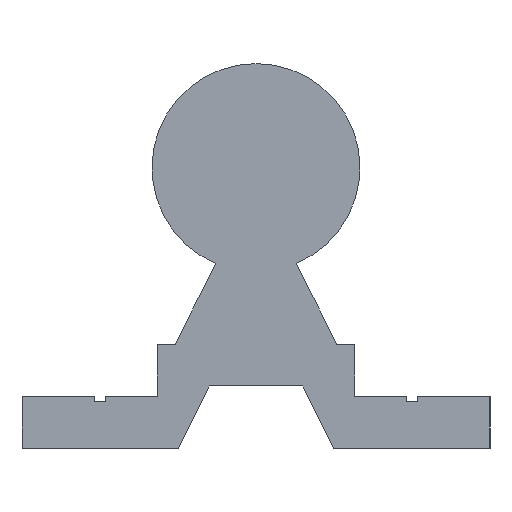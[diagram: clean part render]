
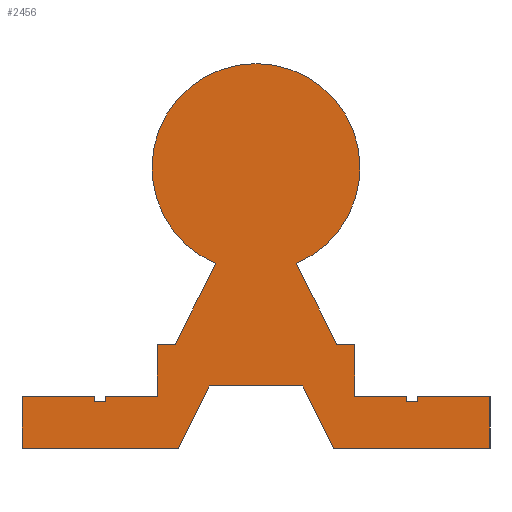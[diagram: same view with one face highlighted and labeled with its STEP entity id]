
A CAD part, left-side view. The second image highlights one B-rep face of the part: STEP entity #2456.
In plain terms, the highlighted planar face has unit normal (-1, 0, 0).
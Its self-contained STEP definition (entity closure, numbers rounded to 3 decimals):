
#61=LINE('',#3503,#261);
#71=LINE('',#3544,#271);
#98=LINE('',#3753,#298);
#200=LINE('',#4149,#400);
#204=LINE('',#4157,#404);
#207=LINE('',#4163,#407);
#210=LINE('',#4169,#410);
#213=LINE('',#4175,#413);
#217=LINE('',#4182,#417);
#220=LINE('',#4187,#420);
#222=LINE('',#4191,#422);
#223=LINE('',#4193,#423);
#224=LINE('',#4196,#424);
#227=LINE('',#4202,#427);
#230=LINE('',#4208,#430);
#233=LINE('',#4215,#433);
#237=LINE('',#4223,#437);
#240=LINE('',#4228,#440);
#243=LINE('',#4233,#443);
#245=LINE('',#4237,#445);
#246=LINE('',#4239,#446);
#247=LINE('',#4242,#447);
#250=LINE('',#4247,#450);
#261=VECTOR('',#2770,10.);
#271=VECTOR('',#2792,10.);
#298=VECTOR('',#2945,10.);
#400=VECTOR('',#3353,10.);
#404=VECTOR('',#3359,10.);
#407=VECTOR('',#3364,10.);
#410=VECTOR('',#3369,10.);
#413=VECTOR('',#3374,10.);
#417=VECTOR('',#3380,10.);
#420=VECTOR('',#3385,10.);
#422=VECTOR('',#3389,10.);
#423=VECTOR('',#3392,10.);
#424=VECTOR('',#3395,10.);
#427=VECTOR('',#3400,10.);
#430=VECTOR('',#3405,10.);
#433=VECTOR('',#3410,10.);
#437=VECTOR('',#3416,10.);
#440=VECTOR('',#3421,10.);
#443=VECTOR('',#3426,10.);
#445=VECTOR('',#3430,10.);
#446=VECTOR('',#3433,10.);
#447=VECTOR('',#3436,10.);
#450=VECTOR('',#3441,10.);
#530=PLANE('',#2734);
#644=FACE_OUTER_BOUND('',#776,.T.);
#776=EDGE_LOOP('',(#2303,#2304,#2305,#2306,#2307,#2308,#2309,#2310,#2311,
#2312,#2313,#2314,#2315,#2316,#2317,#2318,#2319,#2320,#2321,#2322,#2323,
#2324,#2325,#2326));
#919=CIRCLE('',#2731,10.);
#973=VERTEX_POINT('',#3500);
#974=VERTEX_POINT('',#3502);
#986=VERTEX_POINT('',#3541);
#987=VERTEX_POINT('',#3543);
#1048=VERTEX_POINT('',#3750);
#1049=VERTEX_POINT('',#3752);
#1168=VERTEX_POINT('',#4147);
#1169=VERTEX_POINT('',#4148);
#1172=VERTEX_POINT('',#4156);
#1174=VERTEX_POINT('',#4162);
#1176=VERTEX_POINT('',#4168);
#1178=VERTEX_POINT('',#4174);
#1180=VERTEX_POINT('',#4180);
#1181=VERTEX_POINT('',#4185);
#1182=VERTEX_POINT('',#4189);
#1183=VERTEX_POINT('',#4195);
#1185=VERTEX_POINT('',#4201);
#1187=VERTEX_POINT('',#4207);
#1189=VERTEX_POINT('',#4213);
#1190=VERTEX_POINT('',#4214);
#1193=VERTEX_POINT('',#4222);
#1195=VERTEX_POINT('',#4231);
#1196=VERTEX_POINT('',#4235);
#1197=VERTEX_POINT('',#4241);
#1220=EDGE_CURVE('',#973,#974,#61,.T.);
#1236=EDGE_CURVE('',#986,#987,#71,.T.);
#1324=EDGE_CURVE('',#1048,#1049,#98,.T.);
#1521=EDGE_CURVE('',#1168,#1169,#200,.T.);
#1525=EDGE_CURVE('',#1172,#1168,#204,.T.);
#1528=EDGE_CURVE('',#1174,#1172,#207,.T.);
#1531=EDGE_CURVE('',#1176,#1174,#210,.T.);
#1534=EDGE_CURVE('',#1178,#1176,#213,.T.);
#1538=EDGE_CURVE('',#1180,#1178,#217,.T.);
#1541=EDGE_CURVE('',#1181,#1180,#220,.T.);
#1543=EDGE_CURVE('',#1182,#1181,#222,.T.);
#1544=EDGE_CURVE('',#1049,#1182,#223,.T.);
#1545=EDGE_CURVE('',#1183,#1048,#224,.T.);
#1548=EDGE_CURVE('',#1185,#1183,#227,.T.);
#1551=EDGE_CURVE('',#1187,#1185,#230,.T.);
#1554=EDGE_CURVE('',#1189,#1190,#233,.T.);
#1558=EDGE_CURVE('',#1193,#1189,#237,.T.);
#1561=EDGE_CURVE('',#974,#1193,#240,.T.);
#1564=EDGE_CURVE('',#1195,#973,#243,.T.);
#1566=EDGE_CURVE('',#1196,#1195,#245,.T.);
#1567=EDGE_CURVE('',#987,#1196,#246,.T.);
#1568=EDGE_CURVE('',#1197,#986,#247,.T.);
#1571=EDGE_CURVE('',#1169,#1197,#250,.T.);
#1573=EDGE_CURVE('',#1190,#1187,#919,.T.);
#2303=ORIENTED_EDGE('',*,*,#1573,.F.);
#2304=ORIENTED_EDGE('',*,*,#1554,.F.);
#2305=ORIENTED_EDGE('',*,*,#1558,.F.);
#2306=ORIENTED_EDGE('',*,*,#1561,.F.);
#2307=ORIENTED_EDGE('',*,*,#1220,.F.);
#2308=ORIENTED_EDGE('',*,*,#1564,.F.);
#2309=ORIENTED_EDGE('',*,*,#1566,.F.);
#2310=ORIENTED_EDGE('',*,*,#1567,.F.);
#2311=ORIENTED_EDGE('',*,*,#1236,.F.);
#2312=ORIENTED_EDGE('',*,*,#1568,.F.);
#2313=ORIENTED_EDGE('',*,*,#1571,.F.);
#2314=ORIENTED_EDGE('',*,*,#1521,.F.);
#2315=ORIENTED_EDGE('',*,*,#1525,.F.);
#2316=ORIENTED_EDGE('',*,*,#1528,.F.);
#2317=ORIENTED_EDGE('',*,*,#1531,.F.);
#2318=ORIENTED_EDGE('',*,*,#1534,.F.);
#2319=ORIENTED_EDGE('',*,*,#1538,.F.);
#2320=ORIENTED_EDGE('',*,*,#1541,.F.);
#2321=ORIENTED_EDGE('',*,*,#1543,.F.);
#2322=ORIENTED_EDGE('',*,*,#1544,.F.);
#2323=ORIENTED_EDGE('',*,*,#1324,.F.);
#2324=ORIENTED_EDGE('',*,*,#1545,.F.);
#2325=ORIENTED_EDGE('',*,*,#1548,.F.);
#2326=ORIENTED_EDGE('',*,*,#1551,.F.);
#2456=ADVANCED_FACE('',(#644),#530,.F.);
#2731=AXIS2_PLACEMENT_3D('',#4250,#3445,#3446);
#2734=AXIS2_PLACEMENT_3D('',#4253,#3451,#3452);
#2770=DIRECTION('',(0.,-1.,0.));
#2792=DIRECTION('',(0.,-1.,0.));
#2945=DIRECTION('',(0.,-1.,0.));
#3353=DIRECTION('',(0.,0.447,-0.894));
#3359=DIRECTION('',(0.,1.,0.));
#3364=DIRECTION('',(0.,0.447,0.894));
#3369=DIRECTION('',(0.,1.,0.));
#3374=DIRECTION('',(0.,0.,-1.));
#3380=DIRECTION('',(0.,-1.,0.));
#3385=DIRECTION('',(0.,0.,1.));
#3389=DIRECTION('',(0.,-1.,0.));
#3392=DIRECTION('',(0.,0.,-1.));
#3395=DIRECTION('',(0.,0.,-1.));
#3400=DIRECTION('',(0.,-1.,0.));
#3405=DIRECTION('',(0.,-0.447,-0.894));
#3410=DIRECTION('',(0.,-0.447,0.894));
#3416=DIRECTION('',(0.,-1.,0.));
#3421=DIRECTION('',(0.,0.,1.));
#3426=DIRECTION('',(0.,0.,1.));
#3430=DIRECTION('',(0.,-1.,0.));
#3433=DIRECTION('',(0.,0.,-1.));
#3436=DIRECTION('',(0.,0.,1.));
#3441=DIRECTION('',(0.,1.,0.));
#3445=DIRECTION('center_axis',(1.,0.,0.));
#3446=DIRECTION('ref_axis',(0.,1.,0.));
#3451=DIRECTION('center_axis',(1.,0.,0.));
#3452=DIRECTION('ref_axis',(0.,0.,-1.));
#3500=CARTESIAN_POINT('',(0.,14.5,5.));
#3502=CARTESIAN_POINT('',(0.,9.5,5.));
#3503=CARTESIAN_POINT('',(0.,14.5,5.));
#3541=CARTESIAN_POINT('',(0.,22.5,5.));
#3543=CARTESIAN_POINT('',(0.,15.5,5.));
#3544=CARTESIAN_POINT('',(0.,22.5,5.));
#3750=CARTESIAN_POINT('',(0.,-9.5,5.));
#3752=CARTESIAN_POINT('',(0.,-14.5,5.));
#3753=CARTESIAN_POINT('',(0.,-9.5,5.));
#4147=CARTESIAN_POINT('',(0.,4.5,6.));
#4148=CARTESIAN_POINT('',(0.,7.5,0.));
#4149=CARTESIAN_POINT('',(0.,4.5,6.));
#4156=CARTESIAN_POINT('',(0.,-4.5,6.));
#4157=CARTESIAN_POINT('',(0.,-4.5,6.));
#4162=CARTESIAN_POINT('',(0.,-7.5,0.));
#4163=CARTESIAN_POINT('',(0.,-7.5,0.));
#4168=CARTESIAN_POINT('',(0.,-22.5,0.));
#4169=CARTESIAN_POINT('',(0.,-22.5,0.));
#4174=CARTESIAN_POINT('',(0.,-22.5,5.));
#4175=CARTESIAN_POINT('',(0.,-22.5,5.));
#4180=CARTESIAN_POINT('',(0.,-15.5,5.));
#4182=CARTESIAN_POINT('',(0.,-15.5,5.));
#4185=CARTESIAN_POINT('',(0.,-15.5,4.5));
#4187=CARTESIAN_POINT('',(0.,-15.5,4.5));
#4189=CARTESIAN_POINT('',(0.,-14.5,4.5));
#4191=CARTESIAN_POINT('',(0.,-14.5,4.5));
#4193=CARTESIAN_POINT('',(0.,-14.5,5.));
#4195=CARTESIAN_POINT('',(0.,-9.5,10.));
#4196=CARTESIAN_POINT('',(0.,-9.5,10.));
#4201=CARTESIAN_POINT('',(0.,-7.766,10.));
#4202=CARTESIAN_POINT('',(0.,-7.766,10.));
#4207=CARTESIAN_POINT('',(0.,-3.875,17.781));
#4208=CARTESIAN_POINT('',(0.,-3.875,17.781));
#4213=CARTESIAN_POINT('',(0.,7.766,10.));
#4214=CARTESIAN_POINT('',(0.,3.875,17.781));
#4215=CARTESIAN_POINT('',(0.,7.766,10.));
#4222=CARTESIAN_POINT('',(0.,9.5,10.));
#4223=CARTESIAN_POINT('',(0.,9.5,10.));
#4228=CARTESIAN_POINT('',(0.,9.5,5.));
#4231=CARTESIAN_POINT('',(0.,14.5,4.5));
#4233=CARTESIAN_POINT('',(0.,14.5,4.5));
#4235=CARTESIAN_POINT('',(0.,15.5,4.5));
#4237=CARTESIAN_POINT('',(0.,15.5,4.5));
#4239=CARTESIAN_POINT('',(0.,15.5,5.));
#4241=CARTESIAN_POINT('',(0.,22.5,0.));
#4242=CARTESIAN_POINT('',(0.,22.5,0.));
#4247=CARTESIAN_POINT('',(0.,7.5,0.));
#4250=CARTESIAN_POINT('Origin',(0.,0.,27.));
#4253=CARTESIAN_POINT('Origin',(0.,0.,27.));
